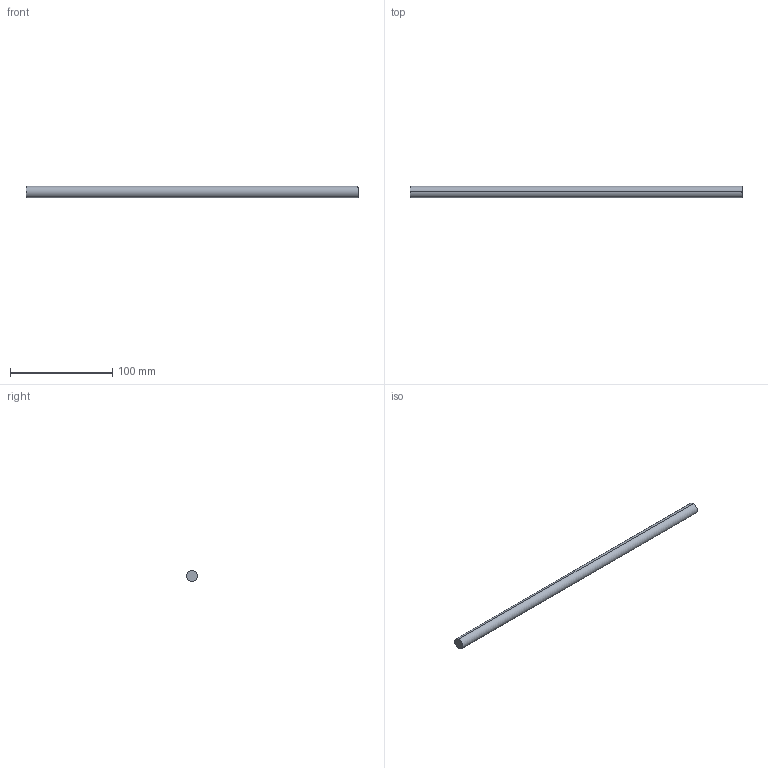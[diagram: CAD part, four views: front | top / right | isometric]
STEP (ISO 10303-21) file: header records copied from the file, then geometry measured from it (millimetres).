
FILE_DESCRIPTION (( 'STEP AP214' ), '1' );
FILE_NAME ('Querreling_2S-Rel_7102_KAB-425.step', '2010-09-22T15:05:51', ( 'grass' ), ( '' ), 'SwSTEP 2.0', 'SolidWorks 2010', '' );
FILE_SCHEMA (( 'AUTOMOTIVE_DESIGN' ));
Length unit declared in the file: millimetre
Products named in the file (1): Querreling_2S-Rel_7102_KAB-425
Bounding box: 324 x 11 x 11 mm (x, y, z)
Volume: 30790.7 mm3; surface area: 11386.7 mm2
Topology: 1 solids, 1 shells, 4 faces, 6 edges, 4 vertices
Faces by surface type: cylinder 2, plane 2
Entity records: 128 total; most frequent: DIRECTION 20, CARTESIAN_POINT 15, ORIENTED_EDGE 12, AXIS2_PLACEMENT_3D 9, EDGE_CURVE 6, VERTEX_POINT 4, EDGE_LOOP 4, CIRCLE 4
